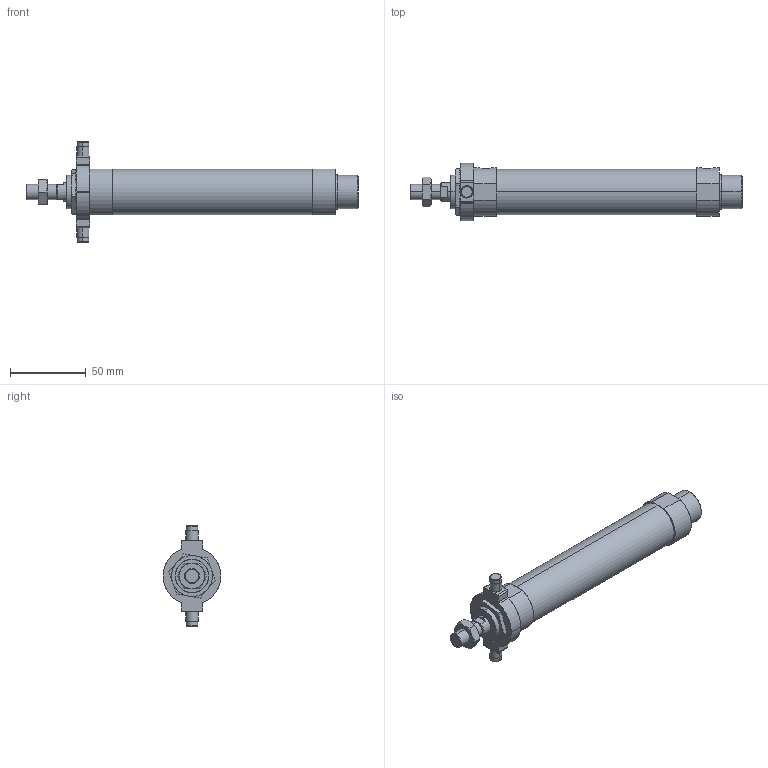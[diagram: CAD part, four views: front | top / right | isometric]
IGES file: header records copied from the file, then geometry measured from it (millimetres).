
Start section: SolidWorks IGES file using analytic representation for surfaces
Global section: file name: C:\Users\Toshiba\Desktop\J#2-25-100-T.IGS; native system: SolidWorks 2014; preprocessor: SolidWorks 2014; author: Toshiba; date: 160308.151637; units: millimetre
Bounding box: 219 x 38 x 66 mm (x, y, z)
Surface area: 27374.2 mm2 (no closed solid volume)
Topology: 0 solids, 0 shells, 136 faces, 2248 edges, 2244 vertices
Faces by surface type: bspline 71, revolution 65
